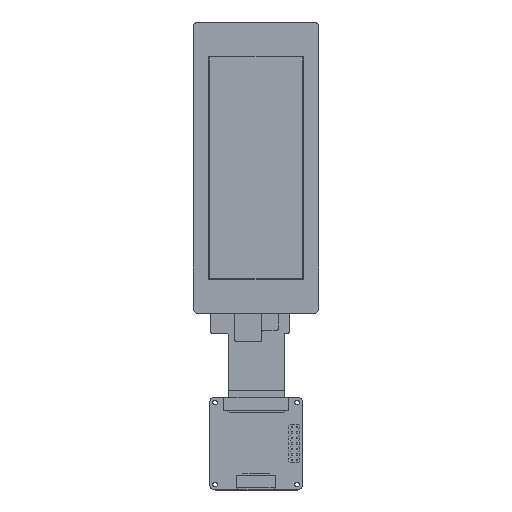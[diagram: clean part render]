
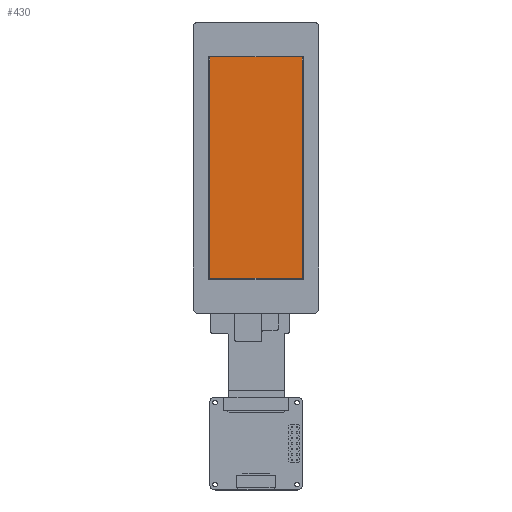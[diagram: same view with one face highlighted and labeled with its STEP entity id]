
A CAD part, top view. The second image highlights one B-rep face of the part: STEP entity #430.
In plain terms, the highlighted planar face has unit normal (0, 0, 1).
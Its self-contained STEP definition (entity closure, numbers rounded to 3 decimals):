
#157=DIRECTION('',(0.,1.,0.));
#158=VECTOR('',#157,81.);
#159=CARTESIAN_POINT('',(-16.985,12.8,1.1));
#160=LINE('',#159,#158);
#161=DIRECTION('',(-1.,0.,0.));
#162=VECTOR('',#161,33.97);
#163=CARTESIAN_POINT('',(16.985,12.8,1.1));
#164=LINE('',#163,#162);
#165=DIRECTION('',(0.,-1.,0.));
#166=VECTOR('',#165,81.);
#167=CARTESIAN_POINT('',(16.985,93.8,1.1));
#168=LINE('',#167,#166);
#169=DIRECTION('',(1.,0.,0.));
#170=VECTOR('',#169,33.97);
#171=CARTESIAN_POINT('',(-16.985,93.8,1.1));
#172=LINE('',#171,#170);
#213=CARTESIAN_POINT('',(-16.985,12.8,1.1));
#214=CARTESIAN_POINT('',(-16.985,93.8,1.1));
#215=VERTEX_POINT('',#213);
#216=VERTEX_POINT('',#214);
#217=CARTESIAN_POINT('',(16.985,93.8,1.1));
#218=VERTEX_POINT('',#217);
#219=CARTESIAN_POINT('',(16.985,12.8,1.1));
#220=VERTEX_POINT('',#219);
#419=CARTESIAN_POINT('',(0.,0.,1.1));
#420=DIRECTION('',(0.,0.,1.));
#421=DIRECTION('',(1.,0.,0.));
#422=AXIS2_PLACEMENT_3D('',#419,#420,#421);
#423=PLANE('',#422);
#424=ORIENTED_EDGE('',*,*,#401,.T.);
#425=ORIENTED_EDGE('',*,*,#407,.T.);
#426=ORIENTED_EDGE('',*,*,#405,.T.);
#427=ORIENTED_EDGE('',*,*,#403,.T.);
#428=EDGE_LOOP('',(#424,#425,#426,#427));
#429=FACE_OUTER_BOUND('',#428,.F.);
#401=EDGE_CURVE('',#215,#216,#160,.T.);
#403=EDGE_CURVE('',#220,#215,#164,.T.);
#405=EDGE_CURVE('',#218,#220,#168,.T.);
#407=EDGE_CURVE('',#216,#218,#172,.T.);
#430=ADVANCED_FACE('',(#429),#423,.T.);
